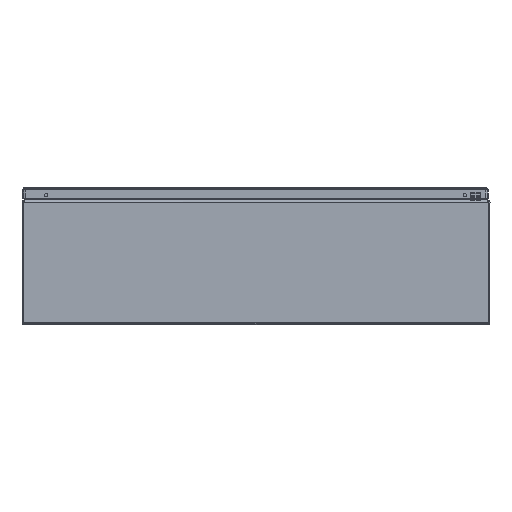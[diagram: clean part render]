
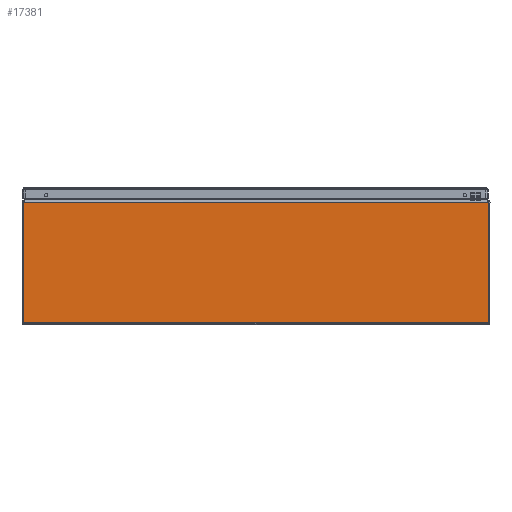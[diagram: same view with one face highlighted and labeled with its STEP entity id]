
A CAD part, front view. The second image highlights one B-rep face of the part: STEP entity #17381.
In plain terms, the highlighted planar face has unit normal (0, -1, 0).
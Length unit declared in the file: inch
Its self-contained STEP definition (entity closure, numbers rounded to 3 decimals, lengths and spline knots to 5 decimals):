
#3164 = EDGE_LOOP ( 'NONE', ( #45750, #45749, #45748, #45747 ) ) ;
#7314 = VECTOR ( 'NONE', #42148, 39.37008 ) ;
#7318 = LINE ( 'NONE', #42144, #7314 ) ;
#14295 = EDGE_CURVE ( 'NONE', #44895, #44879, #36719, .T. ) ;
#14305 = EDGE_CURVE ( 'NONE', #45031, #44879, #36739, .T. ) ;
#14309 = EDGE_CURVE ( 'NONE', #44842, #44895, #36746, .T. ) ;
#17381 = ADVANCED_FACE ( 'NONE', ( #34473 ), #30453, .T. ) ;
#24935 = CARTESIAN_POINT ( 'NONE',  ( -14.92093, -18., 0.123 ) ) ;
#24972 = CARTESIAN_POINT ( 'NONE',  ( 14.92093, -18., 7.838 ) ) ;
#24988 = CARTESIAN_POINT ( 'NONE',  ( 14.92093, -18., 0.123 ) ) ;
#25123 = CARTESIAN_POINT ( 'NONE',  ( -14.92093, -18., 7.838 ) ) ;
#28328 = DIRECTION ( 'NONE',  ( 1., 0., 0. ) ) ;
#28329 = CARTESIAN_POINT ( 'NONE',  ( -195., -18., 0.123 ) ) ;
#28338 = DIRECTION ( 'NONE',  ( 1., 0., 0. ) ) ;
#28342 = CARTESIAN_POINT ( 'NONE',  ( -195., -18., 7.838 ) ) ;
#28365 = DIRECTION ( 'NONE',  ( 0., 0., 1. ) ) ;
#28372 = CARTESIAN_POINT ( 'NONE',  ( 14.92093, -18., 7.838 ) ) ;
#30447 = DIRECTION ( 'NONE',  ( 0., 0., -1. ) ) ;
#30448 = DIRECTION ( 'NONE',  ( 0., -1., 0. ) ) ;
#30453 = PLANE ( 'NONE',  #39213 ) ;
#30459 = CARTESIAN_POINT ( 'NONE',  ( -195., -18., 7.838 ) ) ;
#34473 = FACE_OUTER_BOUND ( 'NONE', #3164, .T. ) ;
#36694 = VECTOR ( 'NONE', #28365, 39.37008 ) ;
#36719 = LINE ( 'NONE', #28372, #36694 ) ;
#36739 = LINE ( 'NONE', #28342, #36740 ) ;
#36740 = VECTOR ( 'NONE', #28338, 39.37008 ) ;
#36746 = LINE ( 'NONE', #28329, #36747 ) ;
#36747 = VECTOR ( 'NONE', #28328, 39.37008 ) ;
#38817 = EDGE_CURVE ( 'NONE', #45031, #44842, #7318, .T. ) ;
#39213 = AXIS2_PLACEMENT_3D ( 'NONE', #30459, #30448, #30447 ) ;
#42144 = CARTESIAN_POINT ( 'NONE',  ( -14.92093, -18., 7.838 ) ) ;
#42148 = DIRECTION ( 'NONE',  ( 0., 0., -1. ) ) ;
#44842 = VERTEX_POINT ( 'NONE', #24935 ) ;
#44879 = VERTEX_POINT ( 'NONE', #24972 ) ;
#44895 = VERTEX_POINT ( 'NONE', #24988 ) ;
#45031 = VERTEX_POINT ( 'NONE', #25123 ) ;
#45747 = ORIENTED_EDGE ( 'NONE', *, *, #14309, .T. ) ;
#45748 = ORIENTED_EDGE ( 'NONE', *, *, #38817, .T. ) ;
#45749 = ORIENTED_EDGE ( 'NONE', *, *, #14305, .F. ) ;
#45750 = ORIENTED_EDGE ( 'NONE', *, *, #14295, .T. ) ;
